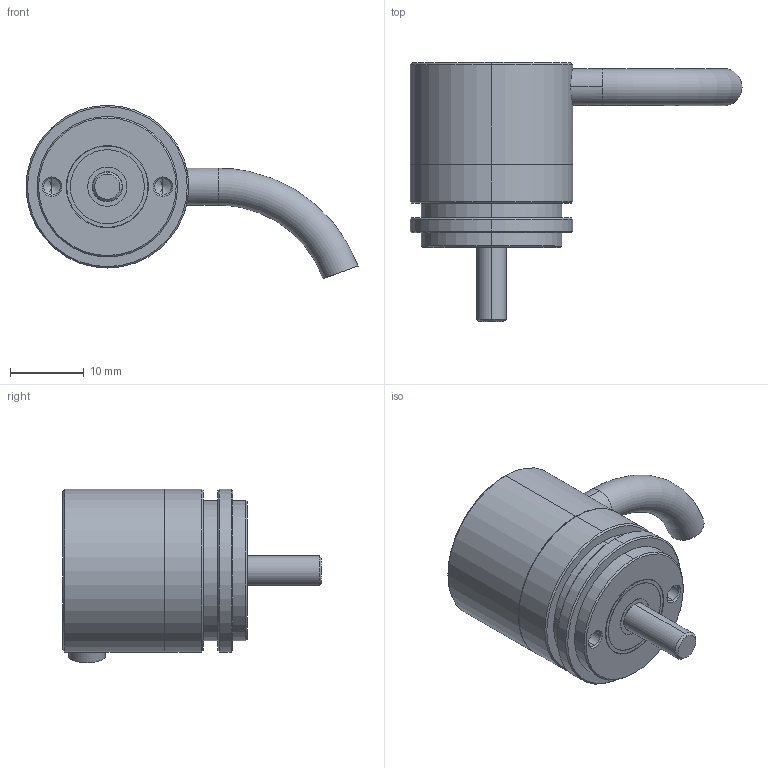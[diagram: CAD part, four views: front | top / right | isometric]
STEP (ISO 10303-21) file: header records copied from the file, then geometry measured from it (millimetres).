
FILE_DESCRIPTION (( 'STEP AP203' ), '1' );
FILE_NAME ('re22ip53radial-3d.step', '2006-09-05T12:58:46', ( '' ), ( '' ), 'SwSTEP 1.0', 'SolidWorks 1999313', '' );
FILE_SCHEMA (( 'CONFIG_CONTROL_DESIGN' ));
Length unit declared in the file: metre
Products named in the file (1): 1
Bounding box: 44.89 x 35 x 23.44 mm (x, y, z)
Volume: 9690.9 mm3; surface area: 3210.3 mm2
Topology: 1 solids, 1 shells, 65 faces, 132 edges, 79 vertices
Faces by surface type: cylinder 30, cone 20, plane 14, torus 1
Entity records: 1774 total; most frequent: DIRECTION 332, CARTESIAN_POINT 328, ORIENTED_EDGE 254, AXIS2_PLACEMENT_3D 141, EDGE_CURVE 127, EDGE_LOOP 80, VERTEX_POINT 79, CIRCLE 75
